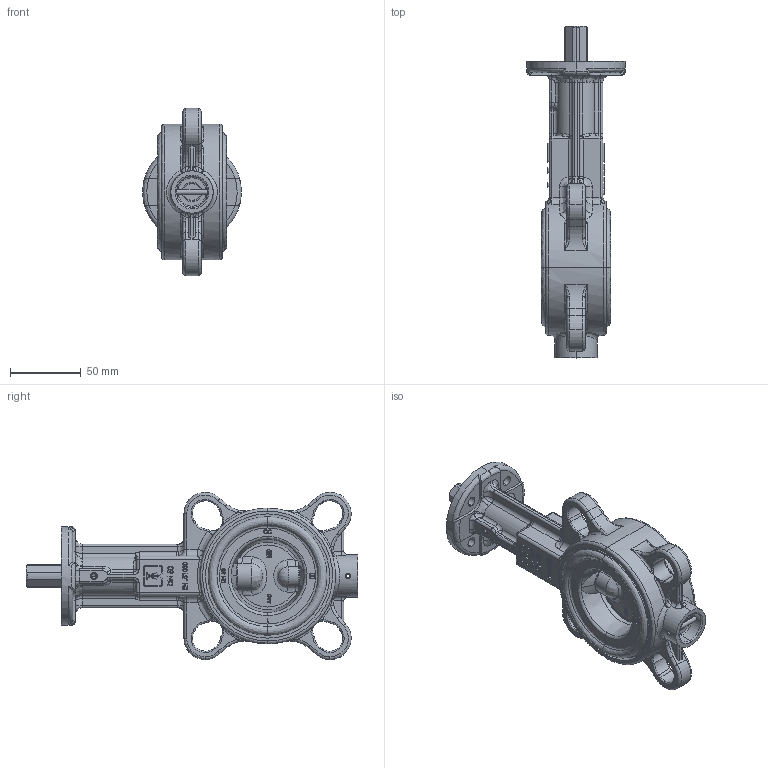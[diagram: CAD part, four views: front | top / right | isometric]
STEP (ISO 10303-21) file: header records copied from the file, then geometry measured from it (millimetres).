
FILE_DESCRIPTION (( 'STEP AP203' ), '1' );
FILE_NAME ('4831050_Axel-Larsson.step', '2023-10-04T11:48:09', ( '' ), ( '' ), 'SwSTEP 2.0', 'SolidWorks 2014', '' );
FILE_SCHEMA (( 'CONFIG_CONTROL_DESIGN' ));
Products named in the file (1): 4831050_Axel-Larsson
Bounding box: 70 x 235 x 118.39 mm (x, y, z)
Volume: 390427.6 mm3; surface area: 90526.2 mm2
Topology: 6 solids, 14 shells, 1596 faces, 4085 edges, 2531 vertices
Faces by surface type: bspline 702, plane 540, cylinder 295, cone 59
Entity records: 85147 total; most frequent: CARTESIAN_POINT 51570, ORIENTED_EDGE 8036, DIRECTION 5257, EDGE_CURVE 4018, VERTEX_POINT 2530, VECTOR 1759, LINE 1759, AXIS2_PLACEMENT_3D 1749
